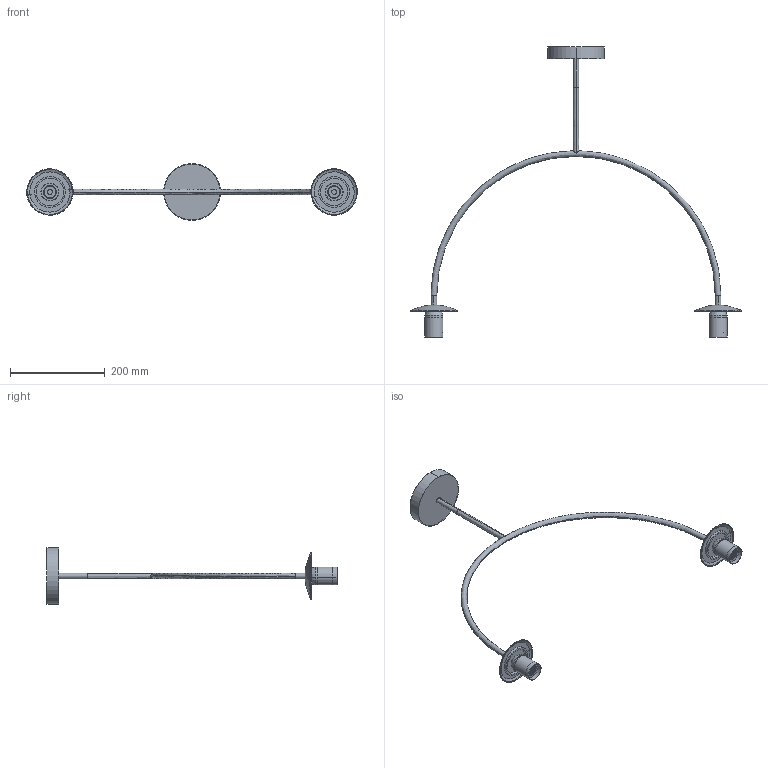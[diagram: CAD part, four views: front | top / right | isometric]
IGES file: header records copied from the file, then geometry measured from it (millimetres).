
Start section: SolidWorks IGES file using analytic representation for surfaces
Global section: file name: \\192.168.111.232\grupos\DISENYO\DESARROLLO DE PRODUCTO\PARMA-3946\PARMA - C3946380 - COLGANTE 2 LUCES\C3946380 - PARMA COLGANTE 2 LUCES.IGS; native system: SolidWorks 2025; preprocessor: SolidWorks 2025; author: o.domenech; date: 260213.133839; units: millimetre
Bounding box: 697.84 x 612.45 x 120 mm (x, y, z)
Volume: 290227.7 mm3; surface area: 148927.1 mm2
Topology: 7 solids, 7 shells, 142 faces, 1020 edges, 1214 vertices
Faces by surface type: revolution 104, plane 30, bspline 8
